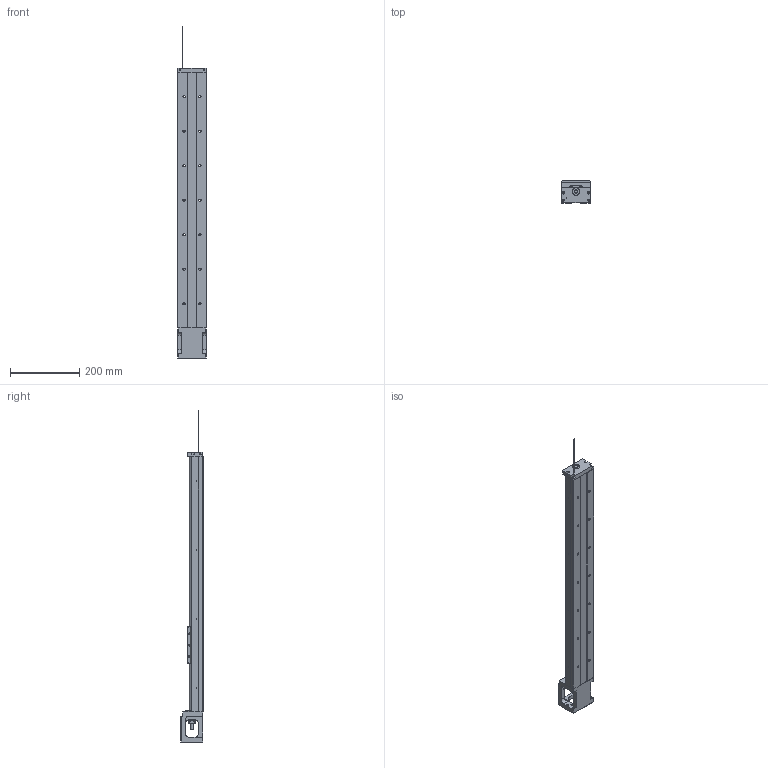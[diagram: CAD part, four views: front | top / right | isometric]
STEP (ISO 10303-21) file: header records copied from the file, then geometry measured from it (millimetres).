
FILE_DESCRIPTION(/* description */ (''),/* implementation_level */ '2;1');
FILE_NAME(/* name */ 'KP46N-740C02-1.stp',/* time_stamp */ '2020-07-03T09:46:14+08:00',/* author */ (''),/* organization */ (''),/* preprocessor_version */ 'ST-DEVELOPER v14',/* originating_system */ 'SIEMENS PLM Software NX 8.0',/* authorisation */ '');
FILE_SCHEMA (('AUTOMOTIVE_DESIGN { 1 0 10303 214 3 1 1 1 }'));
Length unit declared in the file: millimetre
Products named in the file (1): model2
Bounding box: 86 x 64 x 961.69 mm (x, y, z)
Volume: 1667704.1 mm3; surface area: 358686.7 mm2
Topology: 5 solids, 21 shells, 660 faces, 1723 edges, 1127 vertices
Faces by surface type: plane 296, cylinder 237, cone 69, bspline 50, torus 8
Full cylindrical faces by diameter (mm): 2.11 x4, 2.15 x8, 2.42 x8, 3 x6, 3.2 x4, 3.3 x6, 3.4 x8, 4.2 x4, 4.5 x8, 5 x10, 6 x8, 6.35 x2, 6.6 x14, 8 x1, 9.6 x1, 10 x3, 11 x14, 12 x1, 14.95 x2, 15 x1, 16 x2, 22 x3, 27.5 x1, 44 x1, 50 x1
Entity records: 32599 total; most frequent: CARTESIAN_POINT 13274, ORIENTED_EDGE 2928, DIRECTION 2881, EDGE_CURVE 1464, AXIS2_PLACEMENT_3D 1069, VERTEX_POINT 1059, EDGE_LOOP 929, LINE 743
